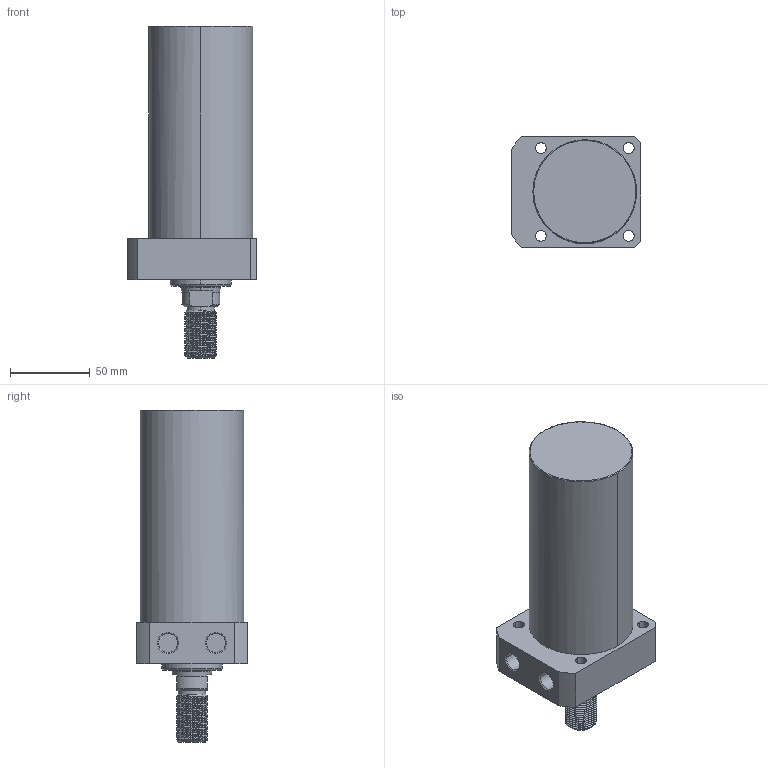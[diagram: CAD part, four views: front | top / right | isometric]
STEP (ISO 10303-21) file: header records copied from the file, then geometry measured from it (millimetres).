
FILE_DESCRIPTION((' '),'2;1');
FILE_NAME( 'TLLR-065CT-100.STEP.stp', '2025-10-24T16:35:00', (' '), ('--- Datakit www.datakit.com---'), ' Datakit CrossCadWare V2024.1 Dec 21 2023', 'Mastercam 2025', ' ');
FILE_SCHEMA(('AUTOMOTIVE_DESIGN { 1 0 10303 214 1 1 1 1 }'));
Length unit declared in the file: millimetre
Products named in the file (1): TLLR-065CT-100
Bounding box: 81 x 70 x 208 mm (x, y, z)
Volume: 597646.2 mm3; surface area: 53883 mm2
Topology: 1 solids, 1 shells, 106 faces, 381 edges, 285 vertices
Faces by surface type: cylinder 66, plane 20, cone 16, bspline 2, torus 2
Entity records: 12698 total; most frequent: CARTESIAN_POINT 9448, ORIENTED_EDGE 762, DIRECTION 531, EDGE_CURVE 381, VERTEX_POINT 285, AXIS2_PLACEMENT_3D 214, B_SPLINE_CURVE_WITH_KNOTS 169, EDGE_LOOP 122
